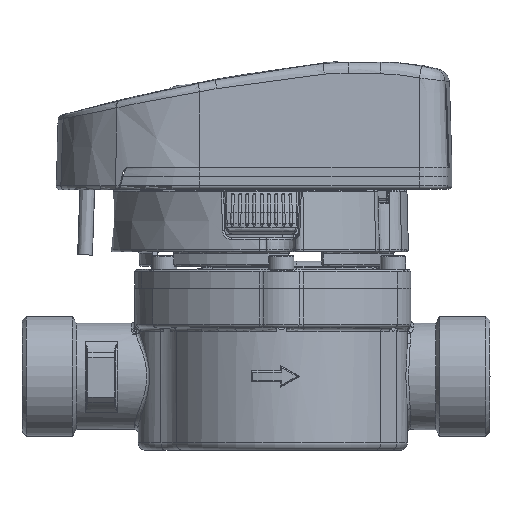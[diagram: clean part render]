
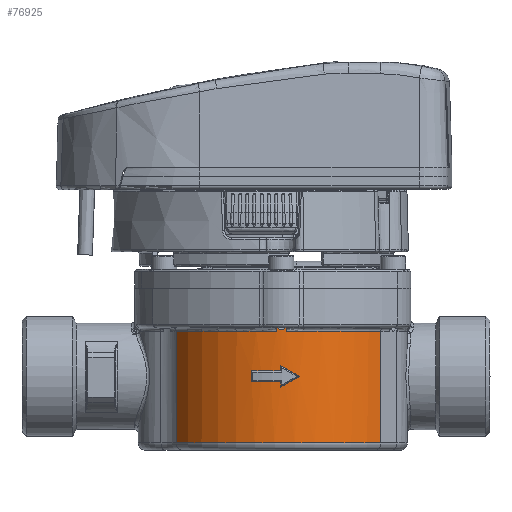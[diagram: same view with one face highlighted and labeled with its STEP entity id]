
A CAD part, front view. The second image highlights one B-rep face of the part: STEP entity #76925.
In plain terms, the highlighted cylindrical face has radius 34.337 mm (diameter 68.674 mm), a partial arc.
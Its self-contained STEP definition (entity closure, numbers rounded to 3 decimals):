
#364=ELLIPSE('',#83467,39.649,34.337);
#365=ELLIPSE('',#83469,39.649,34.337);
#2705=B_SPLINE_CURVE_WITH_KNOTS('',3,(#133780,#133781,#133782,#133783,#133784,
#133785,#133786,#133787,#133788,#133789,#133790,#133791,#133792,#133793,
#133794),.UNSPECIFIED.,.F.,.F.,(4,1,1,1,1,1,1,1,1,1,1,1,4),(0.,0.125,0.188,
0.25,0.313,0.375,0.5,0.625,0.688,0.75,0.813,0.875,1.),.UNSPECIFIED.);
#9114=LINE('',#134733,#13218);
#9119=LINE('',#134753,#13223);
#9124=LINE('',#134777,#13228);
#9130=LINE('',#134825,#13234);
#9131=LINE('',#134827,#13235);
#9132=LINE('',#134828,#13236);
#9133=LINE('',#134829,#13237);
#13218=VECTOR('',#99909,1000.);
#13223=VECTOR('',#99922,1000.);
#13228=VECTOR('',#99937,1000.);
#13234=VECTOR('',#99969,1000.);
#13235=VECTOR('',#99972,1000.);
#13236=VECTOR('',#99973,1000.);
#13237=VECTOR('',#99974,1000.);
#30400=ORIENTED_EDGE('',*,*,#41566,.F.);
#30401=ORIENTED_EDGE('',*,*,#41571,.F.);
#30402=ORIENTED_EDGE('',*,*,#41574,.F.);
#30403=ORIENTED_EDGE('',*,*,#41577,.F.);
#30404=ORIENTED_EDGE('',*,*,#41580,.F.);
#30405=ORIENTED_EDGE('',*,*,#41583,.F.);
#30406=ORIENTED_EDGE('',*,*,#41585,.F.);
#30407=ORIENTED_EDGE('',*,*,#41598,.F.);
#30408=ORIENTED_EDGE('',*,*,#41029,.F.);
#30409=ORIENTED_EDGE('',*,*,#41599,.F.);
#30410=ORIENTED_EDGE('',*,*,#41329,.F.);
#30411=ORIENTED_EDGE('',*,*,#41600,.T.);
#30412=ORIENTED_EDGE('',*,*,#41034,.F.);
#30413=ORIENTED_EDGE('',*,*,#41601,.T.);
#30414=ORIENTED_EDGE('',*,*,#41519,.T.);
#41029=EDGE_CURVE('',#47942,#47941,#51233,.T.);
#41034=EDGE_CURVE('',#47947,#47945,#51237,.T.);
#41329=EDGE_CURVE('',#48139,#48140,#2705,.F.);
#41519=EDGE_CURVE('',#48256,#48260,#51480,.T.);
#41566=EDGE_CURVE('',#48277,#48278,#9114,.T.);
#41571=EDGE_CURVE('',#48282,#48277,#51492,.T.);
#41574=EDGE_CURVE('',#48283,#48282,#9119,.T.);
#41577=EDGE_CURVE('',#48285,#48283,#364,.T.);
#41580=EDGE_CURVE('',#48287,#48285,#365,.T.);
#41583=EDGE_CURVE('',#48289,#48287,#9124,.T.);
#41585=EDGE_CURVE('',#48278,#48289,#51494,.T.);
#41598=EDGE_CURVE('',#47941,#48260,#9130,.T.);
#41599=EDGE_CURVE('',#48140,#47942,#9131,.T.);
#41600=EDGE_CURVE('',#48139,#47945,#9132,.T.);
#41601=EDGE_CURVE('',#47947,#48256,#9133,.T.);
#47941=VERTEX_POINT('',#132376);
#47942=VERTEX_POINT('',#132385);
#47945=VERTEX_POINT('',#132397);
#47947=VERTEX_POINT('',#132401);
#48139=VERTEX_POINT('',#133795);
#48140=VERTEX_POINT('',#133796);
#48256=VERTEX_POINT('',#134617);
#48260=VERTEX_POINT('',#134629);
#48277=VERTEX_POINT('',#134732);
#48278=VERTEX_POINT('',#134734);
#48282=VERTEX_POINT('',#134746);
#48283=VERTEX_POINT('',#134751);
#48285=VERTEX_POINT('',#134757);
#48287=VERTEX_POINT('',#134766);
#48289=VERTEX_POINT('',#134775);
#51233=CIRCLE('',#82973,34.337);
#51237=CIRCLE('',#82978,34.337);
#51480=CIRCLE('',#83420,34.337);
#51492=CIRCLE('',#83463,34.337);
#51494=CIRCLE('',#83472,34.337);
#55555=EDGE_LOOP('',(#30400,#30401,#30402,#30403,#30404,#30405,#30406));
#55556=EDGE_LOOP('',(#30407,#30408,#30409,#30410,#30411,#30412,#30413,#30414));
#59716=FACE_BOUND('',#55555,.T.);
#59717=FACE_BOUND('',#55556,.T.);
#61352=CYLINDRICAL_SURFACE('',#83484,34.337);
#76925=ADVANCED_FACE('',(#59716,#59717),#61352,.T.);
#82973=AXIS2_PLACEMENT_3D('',#132387,#98752,#98753);
#82978=AXIS2_PLACEMENT_3D('',#132402,#98762,#98763);
#83420=AXIS2_PLACEMENT_3D('',#134630,#99793,#99794);
#83463=AXIS2_PLACEMENT_3D('',#134747,#99915,#99916);
#83467=AXIS2_PLACEMENT_3D('',#134759,#99927,#99928);
#83469=AXIS2_PLACEMENT_3D('',#134768,#99932,#99933);
#83472=AXIS2_PLACEMENT_3D('',#134780,#99941,#99942);
#83484=AXIS2_PLACEMENT_3D('',#134826,#99970,#99971);
#98752=DIRECTION('',(0.,0.,1.));
#98753=DIRECTION('',(1.,0.,0.));
#98762=DIRECTION('',(0.,0.,1.));
#98763=DIRECTION('',(1.,0.,0.));
#99793=DIRECTION('',(0.,0.,1.));
#99794=DIRECTION('',(1.,0.,0.));
#99909=DIRECTION('',(0.,0.,-1.));
#99915=DIRECTION('',(0.,0.,-1.));
#99916=DIRECTION('',(0.,-1.,0.));
#99922=DIRECTION('',(0.,0.,-1.));
#99927=DIRECTION('',(0.,-0.5,-0.866));
#99928=DIRECTION('',(0.,0.866,-0.5));
#99932=DIRECTION('',(0.,-0.5,0.866));
#99933=DIRECTION('',(0.,-0.866,-0.5));
#99937=DIRECTION('',(0.,0.,-1.));
#99941=DIRECTION('',(0.,0.,1.));
#99942=DIRECTION('',(0.,1.,0.));
#99969=DIRECTION('',(0.,0.,-1.));
#99970=DIRECTION('',(0.,0.,-1.));
#99971=DIRECTION('',(-1.,0.,0.));
#99972=DIRECTION('',(0.,0.,-1.));
#99973=DIRECTION('',(0.,0.,-1.));
#99974=DIRECTION('',(0.,0.,-1.));
#132376=CARTESIAN_POINT('',(26.408,35.619,34.5));
#132385=CARTESIAN_POINT('',(39.589,9.406,34.5));
#132387=CARTESIAN_POINT('',(5.262,8.565,34.5));
#132397=CARTESIAN_POINT('',(39.544,6.625,34.5));
#132401=CARTESIAN_POINT('',(22.318,-21.236,34.5));
#132402=CARTESIAN_POINT('',(5.262,8.565,34.5));
#133780=CARTESIAN_POINT('',(39.589,9.406,35.5));
#133781=CARTESIAN_POINT('',(39.592,9.27,35.428));
#133782=CARTESIAN_POINT('',(39.596,9.087,35.335));
#133783=CARTESIAN_POINT('',(39.598,8.867,35.234));
#133784=CARTESIAN_POINT('',(39.599,8.756,35.185));
#133785=CARTESIAN_POINT('',(39.6,8.527,35.099));
#133786=CARTESIAN_POINT('',(39.598,8.285,35.033));
#133787=CARTESIAN_POINT('',(39.595,8.018,34.995));
#133788=CARTESIAN_POINT('',(39.59,7.749,35.032));
#133789=CARTESIAN_POINT('',(39.583,7.506,35.098));
#133790=CARTESIAN_POINT('',(39.575,7.277,35.184));
#133791=CARTESIAN_POINT('',(39.571,7.167,35.233));
#133792=CARTESIAN_POINT('',(39.561,6.946,35.334));
#133793=CARTESIAN_POINT('',(39.552,6.763,35.427));
#133794=CARTESIAN_POINT('',(39.544,6.625,35.5));
#133795=CARTESIAN_POINT('',(39.544,6.625,35.5));
#133796=CARTESIAN_POINT('',(39.589,9.406,35.5));
#134617=CARTESIAN_POINT('',(22.318,-21.236,3.5));
#134629=CARTESIAN_POINT('',(26.408,35.619,3.5));
#134630=CARTESIAN_POINT('',(5.262,8.565,3.5));
#134732=CARTESIAN_POINT('',(38.45,-0.244,23.5));
#134733=CARTESIAN_POINT('',(38.45,-0.244,500000.));
#134734=CARTESIAN_POINT('',(38.45,-0.244,20.5));
#134746=CARTESIAN_POINT('',(39.59,7.756,23.5));
#134747=CARTESIAN_POINT('',(5.262,8.565,23.5));
#134751=CARTESIAN_POINT('',(39.59,7.756,25.));
#134753=CARTESIAN_POINT('',(39.59,7.756,500000.));
#134757=CARTESIAN_POINT('',(39.318,12.952,22.));
#134759=CARTESIAN_POINT('',(5.262,8.565,24.533));
#134766=CARTESIAN_POINT('',(39.59,7.756,19.));
#134768=CARTESIAN_POINT('',(5.262,8.565,19.467));
#134775=CARTESIAN_POINT('',(39.59,7.756,20.5));
#134777=CARTESIAN_POINT('',(39.59,7.756,500000.));
#134780=CARTESIAN_POINT('',(5.262,8.565,20.5));
#134825=CARTESIAN_POINT('',(26.408,35.619,500000.));
#134826=CARTESIAN_POINT('',(5.262,8.565,500000.));
#134827=CARTESIAN_POINT('',(39.589,9.406,34.5));
#134828=CARTESIAN_POINT('',(39.544,6.625,35.5));
#134829=CARTESIAN_POINT('',(22.318,-21.236,500000.));
